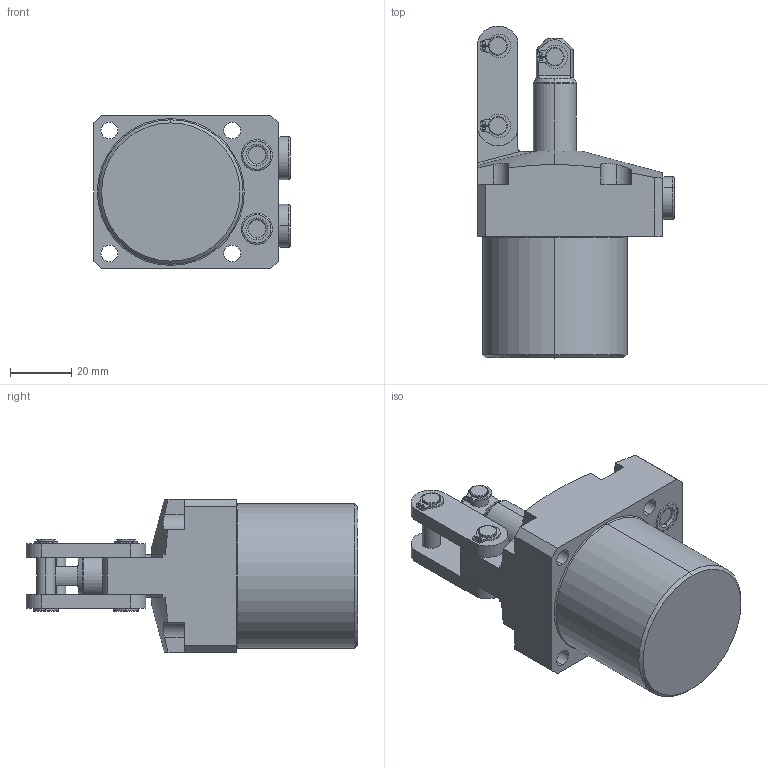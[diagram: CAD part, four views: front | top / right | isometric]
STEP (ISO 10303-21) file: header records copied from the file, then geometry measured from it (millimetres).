
FILE_DESCRIPTION(/* description */ (''),/* implementation_level */ '2;1');
FILE_NAME(/* name */ 'TPC04-F.stp',/* time_stamp */ '2025-01-05T10:33:14+08:00',/* author */ (''),/* organization */ (''),/* preprocessor_version */ 'ST-DEVELOPER v16.7',/* originating_system */ 'SIEMENS PLM Software NX 12.0',/* authorisation */ '');
FILE_SCHEMA (('AUTOMOTIVE_DESIGN { 1 0 10303 214 3 1 1 1 }'));
Length unit declared in the file: millimetre
Products named in the file (5): TPC04-F-03; TPC04-F-04; TPC04-F-02; TPC04-F-01; TPC04-F_stp
Assembly tree (5 placements, depth 2):
  TPC04-F_stp
    TPC04-F-01
    TPC04-F-02
    TPC04-F-04  x2
    TPC04-F-03
Bounding box: 63.8 x 107.97 x 50 mm (x, y, z)
Volume: 146924.3 mm3; surface area: 27557.3 mm2
Topology: 5 solids, 7 shells, 288 faces, 685 edges, 436 vertices
Faces by surface type: cylinder 120, plane 111, torus 34, cone 21, extrusion 2
Entity records: 8100 total; most frequent: CARTESIAN_POINT 1558, DIRECTION 1435, ORIENTED_EDGE 1278, EDGE_CURVE 639, AXIS2_PLACEMENT_3D 572, VERTEX_POINT 408, EDGE_LOOP 309, CIRCLE 302
